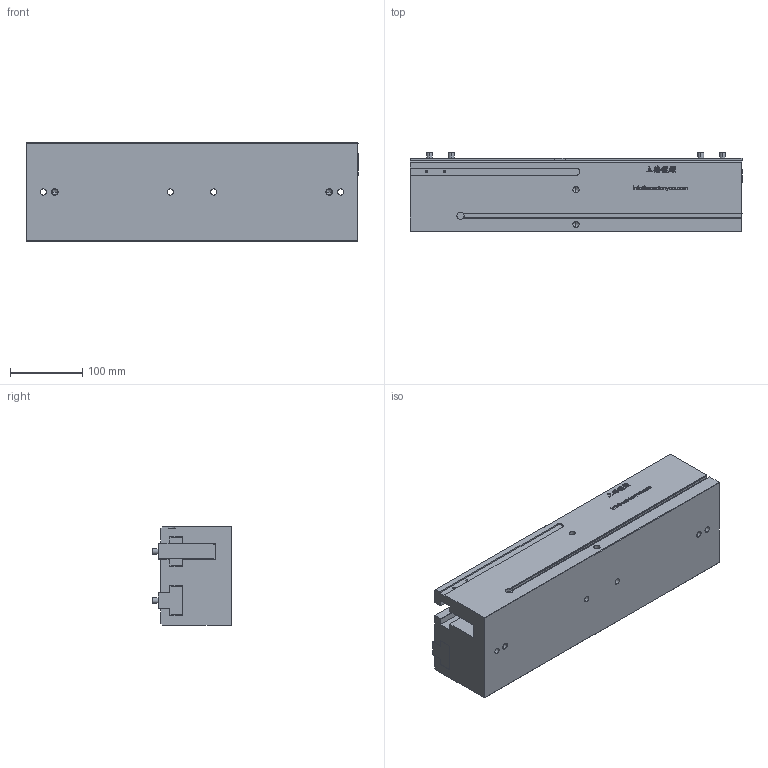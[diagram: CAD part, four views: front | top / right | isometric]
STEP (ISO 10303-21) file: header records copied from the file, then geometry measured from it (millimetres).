
FILE_DESCRIPTION (( 'STEP AP203' ), '1' );
FILE_NAME ('GPL60-200-原始檔-組合-W106.04.18.STEP', '2017-04-18T01:45:40', ( 'DanyaoCAD' ), ( '' ), 'SwSTEP 2.0', 'SolidWorks 2016', '' );
FILE_SCHEMA (( 'CONFIG_CONTROL_DESIGN' ));
Length unit declared in the file: millimetre
Products named in the file (3): Griffa; Corpo; GPL60-200-原始檔-組合-W106.04.18
Assembly tree (3 placements, depth 2):
  GPL60-200-原始檔-組合-W106.04.18
    Griffa  x2
    Corpo
Bounding box: 460 x 110 x 136 mm (x, y, z)
Volume: 5310351.8 mm3; surface area: 472132.9 mm2
Topology: 3 solids, 3 shells, 995 faces, 2775 edges, 1830 vertices
Faces by surface type: bspline 640, plane 263, cylinder 56, cone 36
Entity records: 46726 total; most frequent: CARTESIAN_POINT 26466, ORIENTED_EDGE 5262, EDGE_CURVE 2631, DIRECTION 2081, VERTEX_POINT 1751, B_SPLINE_CURVE_WITH_KNOTS 1280, VECTOR 1237, LINE 1237
